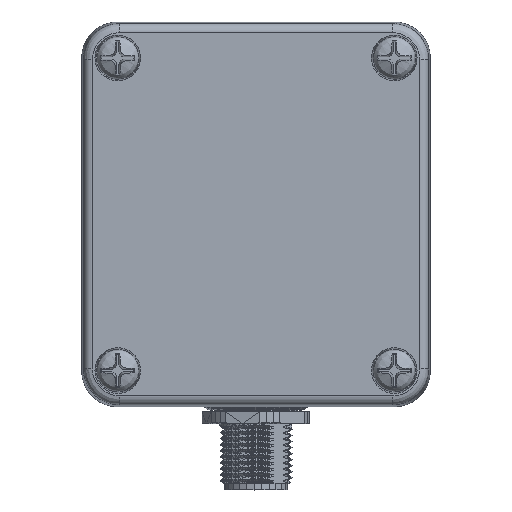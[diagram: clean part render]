
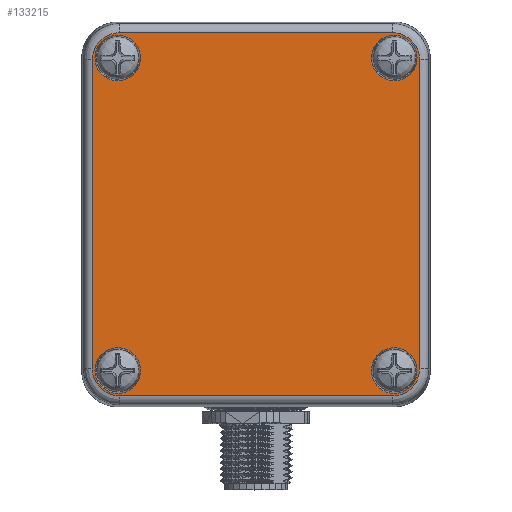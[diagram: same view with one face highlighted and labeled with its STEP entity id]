
A CAD part, top view. The second image highlights one B-rep face of the part: STEP entity #133215.
In plain terms, the highlighted planar face has unit normal (0, 0, 1) as drawn and (0, 0, -1) by its records, which use the part's own axes.
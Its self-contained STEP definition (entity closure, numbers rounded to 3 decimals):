
#241=FACE_BOUND('',#21856,.T.);
#242=FACE_BOUND('',#21857,.T.);
#243=FACE_BOUND('',#21858,.T.);
#244=FACE_BOUND('',#21859,.T.);
#346=PLANE('',#144015);
#10839=ELLIPSE('',#143994,4.507,4.5);
#10840=ELLIPSE('',#143996,4.507,4.5);
#10843=ELLIPSE('',#144004,4.507,4.5);
#10844=ELLIPSE('',#144006,4.507,4.5);
#11135=FACE_OUTER_BOUND('',#21855,.T.);
#21855=EDGE_LOOP('',(#95943,#95944,#95945,#95946,#95947,#95948,#95949,#95950));
#21856=EDGE_LOOP('',(#95951));
#21857=EDGE_LOOP('',(#95952));
#21858=EDGE_LOOP('',(#95953));
#21859=EDGE_LOOP('',(#95954));
#32667=LINE('',#195349,#50788);
#32669=LINE('',#195465,#50790);
#32670=LINE('',#195470,#50791);
#32672=LINE('',#195583,#50793);
#50788=VECTOR('',#155112,51.421);
#50790=VECTOR('',#155130,45.421);
#50791=VECTOR('',#155135,45.421);
#50793=VECTOR('',#155151,51.421);
#68897=CIRCLE('',#143955,3.8);
#68903=CIRCLE('',#143964,3.8);
#68909=CIRCLE('',#143973,3.8);
#68915=CIRCLE('',#143982,3.8);
#69173=VERTEX_POINT('',#195272);
#69179=VERTEX_POINT('',#195290);
#69185=VERTEX_POINT('',#195308);
#69191=VERTEX_POINT('',#195326);
#69196=VERTEX_POINT('',#195342);
#69199=VERTEX_POINT('',#195347);
#69200=VERTEX_POINT('',#195400);
#69203=VERTEX_POINT('',#195456);
#69204=VERTEX_POINT('',#195461);
#69207=VERTEX_POINT('',#195468);
#69208=VERTEX_POINT('',#195522);
#69211=VERTEX_POINT('',#195578);
#77202=EDGE_CURVE('',#69173,#69173,#68897,.T.);
#77211=EDGE_CURVE('',#69179,#69179,#68903,.T.);
#77220=EDGE_CURVE('',#69185,#69185,#68909,.T.);
#77229=EDGE_CURVE('',#69191,#69191,#68915,.T.);
#77239=EDGE_CURVE('',#69199,#69196,#32667,.T.);
#77242=EDGE_CURVE('',#69196,#69200,#10839,.T.);
#77244=EDGE_CURVE('',#69203,#69199,#10840,.T.);
#77248=EDGE_CURVE('',#69200,#69204,#32669,.T.);
#77250=EDGE_CURVE('',#69207,#69203,#32670,.T.);
#77254=EDGE_CURVE('',#69204,#69208,#10843,.T.);
#77256=EDGE_CURVE('',#69211,#69207,#10844,.T.);
#77258=EDGE_CURVE('',#69208,#69211,#32672,.T.);
#95943=ORIENTED_EDGE('',*,*,#77239,.F.);
#95944=ORIENTED_EDGE('',*,*,#77244,.F.);
#95945=ORIENTED_EDGE('',*,*,#77250,.F.);
#95946=ORIENTED_EDGE('',*,*,#77256,.F.);
#95947=ORIENTED_EDGE('',*,*,#77258,.F.);
#95948=ORIENTED_EDGE('',*,*,#77254,.F.);
#95949=ORIENTED_EDGE('',*,*,#77248,.F.);
#95950=ORIENTED_EDGE('',*,*,#77242,.F.);
#95951=ORIENTED_EDGE('',*,*,#77202,.T.);
#95952=ORIENTED_EDGE('',*,*,#77211,.T.);
#95953=ORIENTED_EDGE('',*,*,#77220,.T.);
#95954=ORIENTED_EDGE('',*,*,#77229,.T.);
#133215=ADVANCED_FACE('',(#11135,#241,#242,#243,#244),#346,.F.);
#143955=AXIS2_PLACEMENT_3D('',#195274,#155026,#155027);
#143964=AXIS2_PLACEMENT_3D('',#195292,#155047,#155048);
#143973=AXIS2_PLACEMENT_3D('',#195310,#155068,#155069);
#143982=AXIS2_PLACEMENT_3D('',#195328,#155089,#155090);
#143994=AXIS2_PLACEMENT_3D('',#195404,#155117,#155118);
#143996=AXIS2_PLACEMENT_3D('',#195458,#155121,#155122);
#144004=AXIS2_PLACEMENT_3D('',#195526,#155141,#155142);
#144006=AXIS2_PLACEMENT_3D('',#195580,#155145,#155146);
#144015=AXIS2_PLACEMENT_3D('',#195603,#155172,#155173);
#155026=DIRECTION('center_axis',(0.,0.,1.));
#155027=DIRECTION('ref_axis',(1.,0.,0.));
#155047=DIRECTION('center_axis',(0.,0.,1.));
#155048=DIRECTION('ref_axis',(1.,0.,0.));
#155068=DIRECTION('center_axis',(0.,0.,1.));
#155069=DIRECTION('ref_axis',(1.,0.,0.));
#155089=DIRECTION('center_axis',(0.,0.,1.));
#155090=DIRECTION('ref_axis',(1.,0.,0.));
#155112=DIRECTION('',(0.,1.,0.));
#155117=DIRECTION('center_axis',(0.,0.,1.));
#155118=DIRECTION('ref_axis',(0.707,0.707,0.));
#155121=DIRECTION('center_axis',(0.,0.,1.));
#155122=DIRECTION('ref_axis',(0.707,-0.707,0.));
#155130=DIRECTION('',(-1.,0.,0.));
#155135=DIRECTION('',(1.,0.,0.));
#155141=DIRECTION('center_axis',(0.,0.,1.));
#155142=DIRECTION('ref_axis',(-0.707,0.707,0.));
#155145=DIRECTION('center_axis',(0.,0.,1.));
#155146=DIRECTION('ref_axis',(-0.707,-0.707,0.));
#155151=DIRECTION('',(0.,-1.,0.));
#155172=DIRECTION('center_axis',(0.,0.,1.));
#155173=DIRECTION('ref_axis',(1.,0.,0.));
#195272=CARTESIAN_POINT('',(398.863,412.93,0.));
#195274=CARTESIAN_POINT('Origin',(402.663,412.93,0.));
#195290=CARTESIAN_POINT('',(444.863,412.93,0.));
#195292=CARTESIAN_POINT('Origin',(448.663,412.93,0.));
#195308=CARTESIAN_POINT('',(398.863,360.93,0.));
#195310=CARTESIAN_POINT('Origin',(402.663,360.93,0.));
#195326=CARTESIAN_POINT('',(444.863,360.93,0.));
#195328=CARTESIAN_POINT('Origin',(448.663,360.93,0.));
#195342=CARTESIAN_POINT('',(452.871,412.641,0.));
#195347=CARTESIAN_POINT('',(452.871,361.22,0.));
#195349=CARTESIAN_POINT('',(452.871,361.22,0.));
#195400=CARTESIAN_POINT('',(448.374,417.138,0.));
#195404=CARTESIAN_POINT('Origin',(448.367,412.634,0.));
#195456=CARTESIAN_POINT('',(448.374,356.723,0.));
#195458=CARTESIAN_POINT('Origin',(448.367,361.227,0.));
#195461=CARTESIAN_POINT('',(402.953,417.138,0.));
#195465=CARTESIAN_POINT('',(448.374,417.138,0.));
#195468=CARTESIAN_POINT('',(402.953,356.723,0.));
#195470=CARTESIAN_POINT('',(402.953,356.723,0.));
#195522=CARTESIAN_POINT('',(398.456,412.641,0.));
#195526=CARTESIAN_POINT('Origin',(402.96,412.634,0.));
#195578=CARTESIAN_POINT('',(398.456,361.22,0.));
#195580=CARTESIAN_POINT('Origin',(402.96,361.227,0.));
#195583=CARTESIAN_POINT('',(398.456,412.641,0.));
#195603=CARTESIAN_POINT('Origin',(425.663,386.93,0.));
